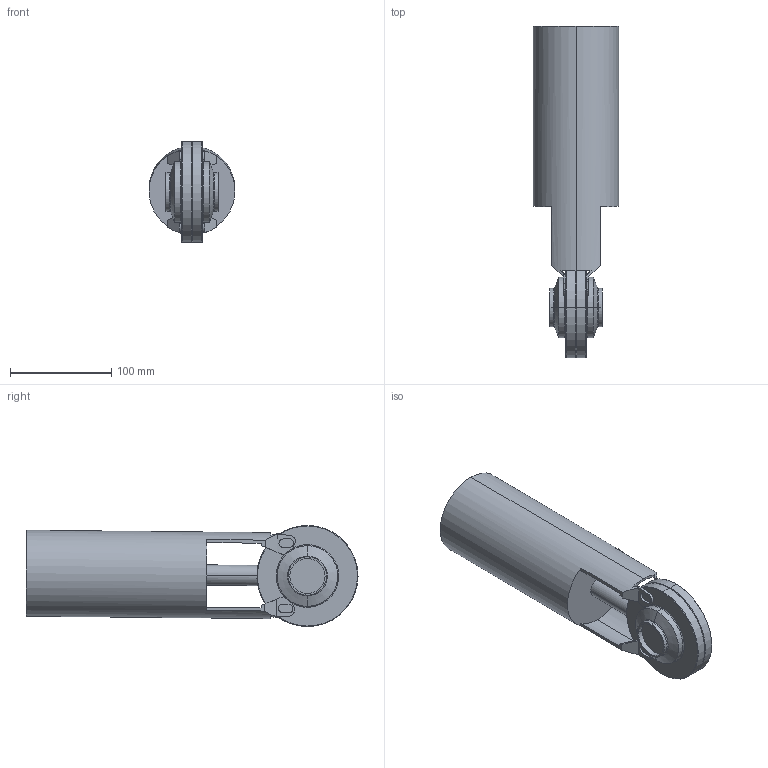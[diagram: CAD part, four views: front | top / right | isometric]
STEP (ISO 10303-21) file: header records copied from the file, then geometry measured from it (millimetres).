
FILE_DESCRIPTION(('OneSpaceDesigner STEP Export'),'2;1');
FILE_NAME('25-80-002-..vereint.stp','2007-04-20T10:08:27',(''),(''),'OneSpace Designer STEP processor for AP214 (Solid Model)','OneSpace Modeling 15.00 06-Feb-2007 (C) CoCreate Software GmbH','');
FILE_SCHEMA(('AUTOMOTIVE_DESIGN { 1 0 10303 214 1 1 1 1 }'));
Length unit declared in the file: millimetre
Products named in the file (2): SV1-1.5zoll-FZ-12S; SV1-1.5zoll-FZ-12S-vereint
Assembly tree (1 placements, depth 2):
  SV1-1.5zoll-FZ-12S-vereint
    SV1-1.5zoll-FZ-12S
Bounding box: 85 x 328.41 x 100 mm (x, y, z)
Volume: 1260357.4 mm3; surface area: 104361.4 mm2
Topology: 1 solids, 1 shells, 140 faces, 377 edges, 238 vertices
Faces by surface type: plane 74, cylinder 42, cone 16, torus 8
Entity records: 4611 total; most frequent: CARTESIAN_POINT 1375, ORIENTED_EDGE 754, DIRECTION 580, EDGE_CURVE 377, VERTEX_POINT 238, VECTOR 198, LINE 198, AXIS2_PLACEMENT_3D 191
